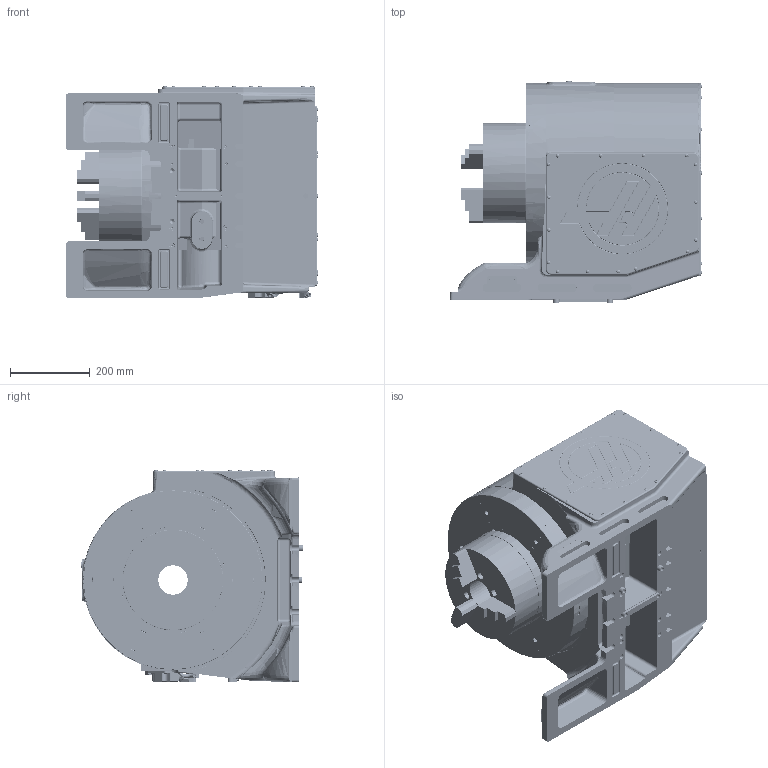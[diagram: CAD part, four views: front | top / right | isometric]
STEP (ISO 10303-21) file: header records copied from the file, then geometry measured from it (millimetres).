
FILE_DESCRIPTION (( 'STEP AP214' ), '1' );
FILE_NAME ('TH450 .STEP', '2021-10-19T17:46:40', ( '' ), ( '' ), 'SwSTEP 2.0', 'SolidWorks 2021', '' );
FILE_SCHEMA (( 'AUTOMOTIVE_DESIGN' ));
Length unit declared in the file: inch
Products named in the file (5): TH450  ; Base^TH450_defeature  ; 10in Manual 3-Jaw Chuck  ; Bolt Pattern Platter  ; T-Slot Platter  
Assembly tree (4 placements, depth 2):
  TH450  
    Base^TH450_defeature  
    10in Manual 3-Jaw Chuck  
    Bolt Pattern Platter  
    T-Slot Platter  
Bounding box: 633.02 x 557.78 x 535.02 mm (x, y, z)
Volume: 103028543.2 mm3; surface area: 3295339.6 mm2
Topology: 4 solids, 69 shells, 4713 faces, 11737 edges, 7437 vertices
Faces by surface type: plane 1996, cylinder 1491, cone 447, bspline 443, torus 177, sphere 159
Entity records: 236059 total; most frequent: CARTESIAN_POINT 71472, ORIENTED_EDGE 23176, DIRECTION 22242, EDGE_CURVE 11588, AXIS2_PLACEMENT_3D 8122, VERTEX_POINT 7412, VECTOR 5998, LINE 5998
